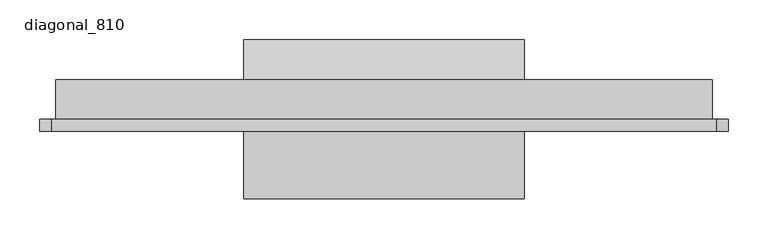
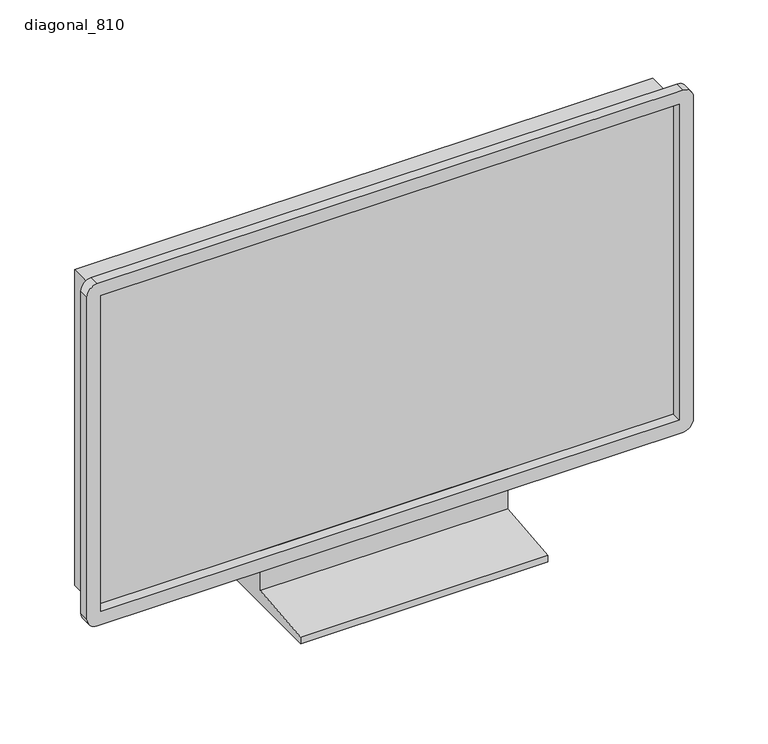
"""IFC4 building model written with IfcOpenShell, lengths in millimetres: proxy geometry, Eq_TV : diagonal_810."""

from ifc_helpers import new_model, si_unit, point, frame, frame_2d, origin, place, context, project, spatial, polyline, circle_curve, trimmed, segment, composite_curve, outline, extrude, source, transform, mapped, element, save


def diagonal_810_7ba350c9(model_context):
    return source(origin(), model_context, "Body", "SweptSolid", [
        extrude(outline(polyline([(-51.4613764, 80.0), (-1.4613764, 80.0), (48.5386236, 0.0), (-151.4613764, 0.0), (-151.4613764, 10.0), (-51.4613764, 20.0), (-51.4613764, 80.0)])), frame((-180.4346678, 0.0, 0.0), z_axis=(1.0, 0.0, 0.0), x_axis=(0.0, 1.0, 0.0)), (0.0, 0.0, 1.0), 352.9803073),
        extrude(outline(polyline([(409.0357931, -51.4613764), (-416.9248214, -51.4613764), (-416.9248214, -1.4613764), (409.0357931, -1.4613764), (409.0357931, -51.4613764)])), frame((0.0, 0.0, 80.0), z_axis=(0.0, 0.0, 1.0), x_axis=(1.0, 0.0, 0.0)), (0.0, 0.0, 1.0), 477.1392838),
        extrude(outline(composite_curve([segment(polyline([(577.1392838, 414.0357931), (577.1392838, -421.9248214)]), True, "CONTINUOUS"), segment(trimmed(circle_curve(frame_2d((562.1392838, -421.9248214)), 15.0), [point((577.1392838, -421.9248214))], [point((562.1392838, -436.9248214))], False, "CARTESIAN"), True, "CONTINUOUS"), segment(polyline([(562.1392838, -436.9248214), (75.0, -436.9248214)]), True, "CONTINUOUS"), segment(trimmed(circle_curve(frame_2d((75.0, -421.9248214)), 15.0), [point((75.0, -436.9248214))], [point((60.0, -421.9248214))], False, "CARTESIAN"), True, "CONTINUOUS"), segment(polyline([(60.0, -421.9248214), (60.0, 414.0357931)]), True, "CONTINUOUS"), segment(trimmed(circle_curve(frame_2d((75.0, 414.0357931)), 15.0), [point((60.0, 414.0357931))], [point((75.0, 429.0357931))], False, "CARTESIAN"), True, "CONTINUOUS"), segment(polyline([(75.0, 429.0357931), (562.1392838, 429.0357931)]), True, "CONTINUOUS"), segment(trimmed(circle_curve(frame_2d((562.1392838, 414.0357931)), 15.0), [point((562.1392838, 429.0357931))], [point((577.1392838, 414.0357931))], False, "CARTESIAN"), True, "CONTINUOUS")], self_intersect=False), holes=[polyline([(557.1392838, 409.0357931), (80.0, 409.0357931), (80.0, -416.9248214), (557.1392838, -416.9248214), (557.1392838, 409.0357931)])]), frame((0.0, -66.4613764, 0.0), z_axis=(0.0, 1.0, 0.0), x_axis=(0.0, 0.0, 1.0)), (0.0, 0.0, 1.0), 15.0),
    ])


if __name__ == "__main__":
    model = new_model("IFC4")
    model_context = context("Model", 3, world=origin())
    ifc_project = project(units=[si_unit("LENGTHUNIT", "METRE", prefix="MILLI")], contexts=[model_context])
    site = spatial("IfcSite", under=ifc_project)
    building = spatial("IfcBuilding", under=site)
    placement = place(None, origin())
    diagonal_810_shape = diagonal_810_7ba350c9(model_context)
    element("IfcBuildingElementProxy", 1, Name="Eq_TV : diagonal_810", ObjectType="Eq_TV : diagonal_810", at=placement, inside=building, context=model_context, shape_type="MappedRepresentation", body=[
        mapped(diagonal_810_shape, transform((0.0, 0.0, 0.0), x_axis=(1.0, 0.0, 0.0), y_axis=(0.0, 1.0, 0.0), z_axis=(0.0, 0.0, 1.0))),
    ])
    save(model, "model.ifc")
